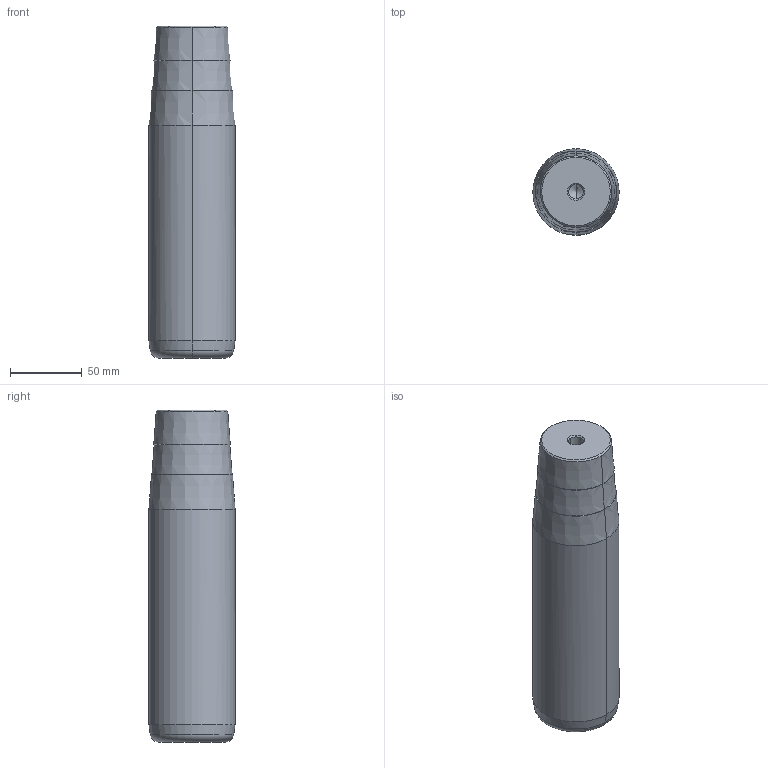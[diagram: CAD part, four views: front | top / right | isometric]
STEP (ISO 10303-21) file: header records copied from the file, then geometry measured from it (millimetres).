
FILE_DESCRIPTION(('CATIA V5 STEP Exchange'),'2;1');
FILE_NAME('C:\Users\Utente\Desktop\IO LAVORO\3D X SITO CF\X SITO\722\722-60x180x231.stp','2021-01-07T19:34:23+00:00',('none'),('none'),'CATIA Version 5 Release 20 GA (IN-10)','CATIA V5 STEP AP203','none');
FILE_SCHEMA(('CONFIG_CONTROL_DESIGN'));
Length unit declared in the file: millimetre
Products named in the file (1): 722-60x180x231
Bounding box: 60 x 60 x 231 mm (x, y, z)
Volume: 613242.4 mm3; surface area: 48289.7 mm2
Topology: 1 solids, 1 shells, 32 faces, 98 edges, 66 vertices
Faces by surface type: cone 22, cylinder 6, plane 2, torus 2
Entity records: 1172 total; most frequent: CARTESIAN_POINT 285, ORIENTED_EDGE 188, DIRECTION 148, EDGE_CURVE 94, AXIS2_PLACEMENT_3D 89, VERTEX_POINT 66, CIRCLE 56, EDGE_LOOP 34
